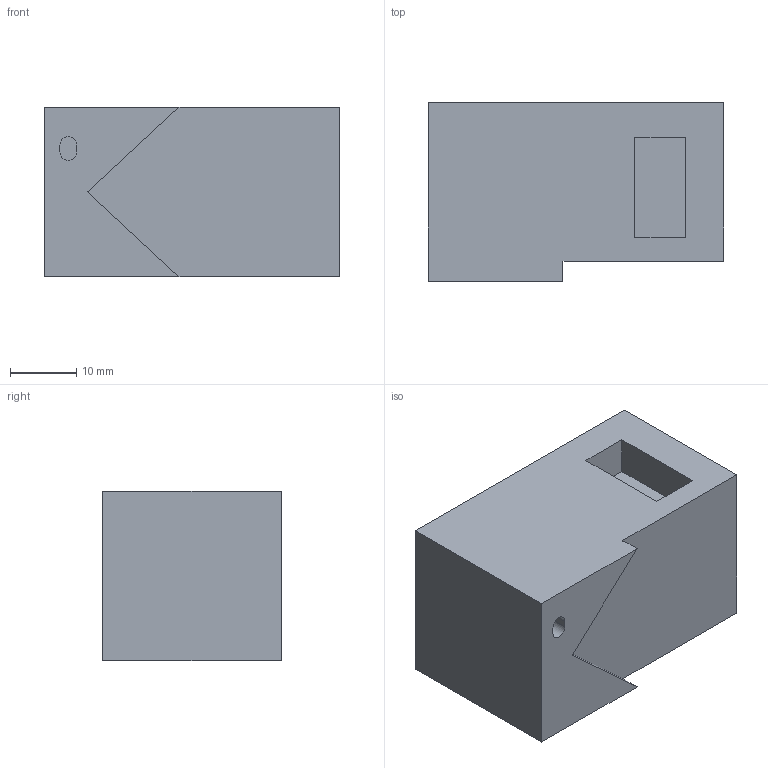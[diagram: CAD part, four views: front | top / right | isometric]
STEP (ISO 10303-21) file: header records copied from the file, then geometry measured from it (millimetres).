
FILE_DESCRIPTION(('Open CASCADE Model'),'2;1');
FILE_NAME('Open CASCADE Shape Model','2021-05-12T19:00:30',('Author'),( 'Open CASCADE'),'Open CASCADE STEP processor 7.4','Open CASCADE 7.4' ,'Unknown');
FILE_SCHEMA(('AUTOMOTIVE_DESIGN { 1 0 10303 214 1 1 1 1 }'));
Length unit declared in the file: millimetre
Products named in the file (1): Open CASCADE STEP translator 7.4 153
Bounding box: 44.59 x 26.95 x 25.54 mm (x, y, z)
Volume: 26833.9 mm3; surface area: 6939.3 mm2
Topology: 1 solids, 1 shells, 24 faces, 57 edges, 38 vertices
Faces by surface type: plane 22, cylinder 2
Entity records: 1442 total; most frequent: CARTESIAN_POINT 246, DIRECTION 223, LINE 163, VECTOR 163, ORIENTED_EDGE 114, PCURVE 114, DEFINITIONAL_REPRESENTATION 114, EDGE_CURVE 57
